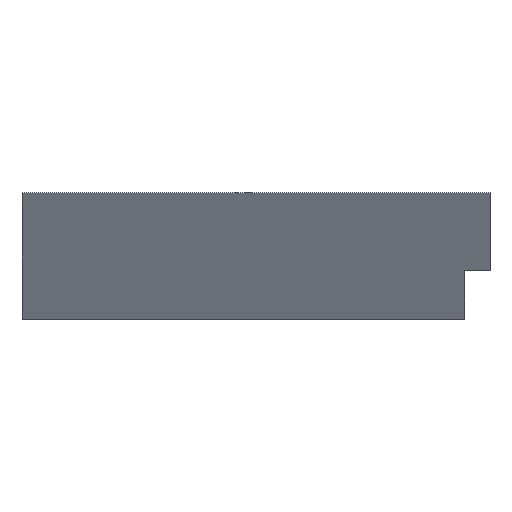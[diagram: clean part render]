
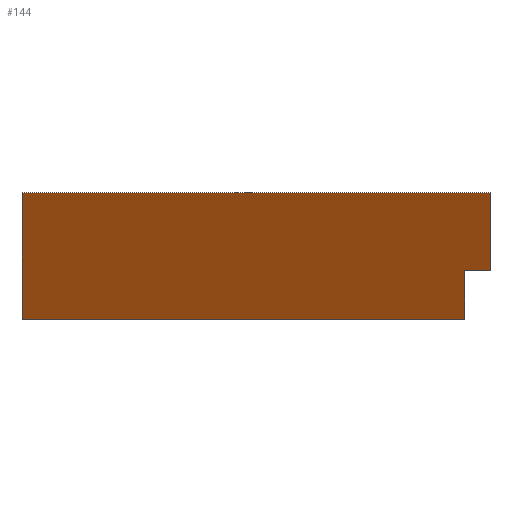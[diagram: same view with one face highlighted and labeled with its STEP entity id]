
A CAD part, front view. The second image highlights one B-rep face of the part: STEP entity #144.
In plain terms, the highlighted planar face has unit normal (0, -0.868, -0.496).
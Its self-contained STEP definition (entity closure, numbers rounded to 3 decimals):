
#18=FACE_OUTER_BOUND('',#26,.T.);
#26=EDGE_LOOP('',(#109,#110,#111,#112,#113,#114));
#34=LINE('',#204,#52);
#35=LINE('',#207,#53);
#38=LINE('',#213,#56);
#41=LINE('',#219,#59);
#42=LINE('',#221,#60);
#43=LINE('',#222,#61);
#52=VECTOR('',#166,10.);
#53=VECTOR('',#169,10.);
#56=VECTOR('',#174,10.);
#59=VECTOR('',#179,10.);
#60=VECTOR('',#180,10.);
#61=VECTOR('',#181,10.);
#68=VERTEX_POINT('',#198);
#70=VERTEX_POINT('',#202);
#71=VERTEX_POINT('',#206);
#73=VERTEX_POINT('',#212);
#75=VERTEX_POINT('',#218);
#76=VERTEX_POINT('',#220);
#82=EDGE_CURVE('',#68,#70,#34,.T.);
#83=EDGE_CURVE('',#70,#71,#35,.T.);
#86=EDGE_CURVE('',#73,#68,#38,.T.);
#89=EDGE_CURVE('',#75,#71,#41,.T.);
#90=EDGE_CURVE('',#75,#76,#42,.T.);
#91=EDGE_CURVE('',#73,#76,#43,.T.);
#109=ORIENTED_EDGE('',*,*,#82,.T.);
#110=ORIENTED_EDGE('',*,*,#83,.T.);
#111=ORIENTED_EDGE('',*,*,#89,.F.);
#112=ORIENTED_EDGE('',*,*,#90,.T.);
#113=ORIENTED_EDGE('',*,*,#91,.F.);
#114=ORIENTED_EDGE('',*,*,#86,.T.);
#136=PLANE('',#154);
#144=ADVANCED_FACE('',(#18),#136,.T.);
#154=AXIS2_PLACEMENT_3D('',#217,#177,#178);
#166=DIRECTION('',(0.,-0.496,0.868));
#169=DIRECTION('',(1.,0.,0.));
#174=DIRECTION('',(1.,0.,0.));
#177=DIRECTION('center_axis',(0.,-0.868,-0.496));
#178=DIRECTION('ref_axis',(0.,-0.496,0.868));
#179=DIRECTION('',(0.,0.496,-0.868));
#180=DIRECTION('',(-1.,0.,0.));
#181=DIRECTION('',(0.,-0.496,0.868));
#198=CARTESIAN_POINT('',(93.9,78.04,3.1));
#202=CARTESIAN_POINT('',(93.9,72.597,12.626));
#204=CARTESIAN_POINT('',(93.9,75.319,7.863));
#206=CARTESIAN_POINT('',(98.9,72.597,12.626));
#207=CARTESIAN_POINT('',(53.95,72.597,12.626));
#212=CARTESIAN_POINT('',(7.1,78.04,3.1));
#213=CARTESIAN_POINT('',(9.,78.04,3.1));
#217=CARTESIAN_POINT('Origin',(9.,78.04,3.1));
#218=CARTESIAN_POINT('',(98.9,63.869,27.9));
#219=CARTESIAN_POINT('',(98.9,63.869,27.9));
#220=CARTESIAN_POINT('',(7.1,63.869,27.9));
#221=CARTESIAN_POINT('',(9.,63.869,27.9));
#222=CARTESIAN_POINT('',(7.1,63.869,27.9));
